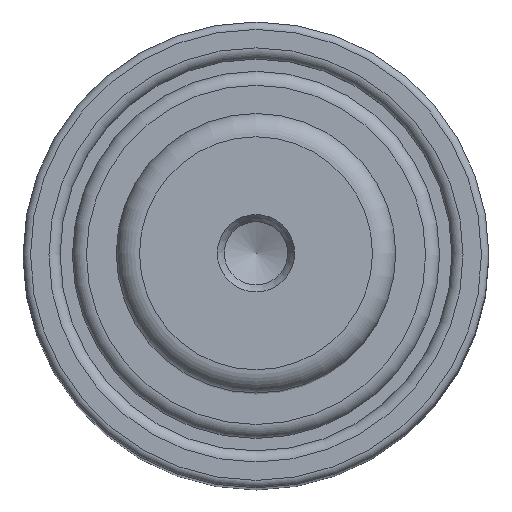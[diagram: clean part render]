
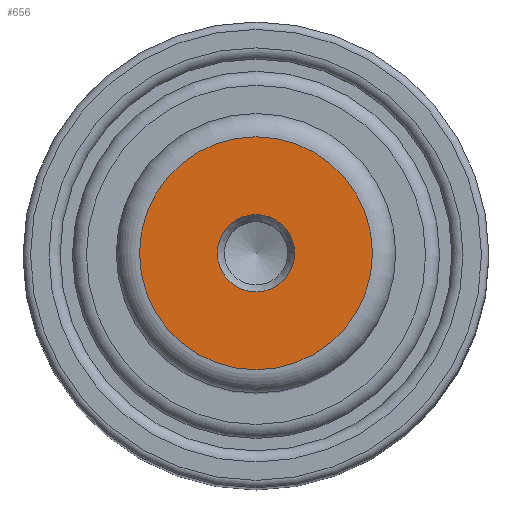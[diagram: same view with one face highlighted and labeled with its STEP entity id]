
A CAD part, top view. The second image highlights one B-rep face of the part: STEP entity #656.
In plain terms, the highlighted planar face has unit normal (0, 0, 1).
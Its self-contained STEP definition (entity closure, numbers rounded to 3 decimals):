
#163=ORIENTED_EDGE('',*,*,#252,.T.);
#164=ORIENTED_EDGE('',*,*,#251,.T.);
#251=EDGE_CURVE('',#309,#309,#363,.F.);
#252=EDGE_CURVE('',#310,#310,#364,.T.);
#309=VERTEX_POINT('',#1344);
#310=VERTEX_POINT('',#1347);
#363=CIRCLE('',#926,4.151);
#364=CIRCLE('',#928,12.5);
#442=EDGE_LOOP('',(#163));
#443=EDGE_LOOP('',(#164));
#550=FACE_BOUND('',#442,.T.);
#551=FACE_BOUND('',#443,.T.);
#615=PLANE('',#927);
#656=ADVANCED_FACE('',(#550,#551),#615,.T.);
#926=AXIS2_PLACEMENT_3D('',#1343,#1105,#1106);
#927=AXIS2_PLACEMENT_3D('',#1345,#1107,#1108);
#928=AXIS2_PLACEMENT_3D('',#1346,#1109,#1110);
#1105=DIRECTION('',(0.,0.,1.));
#1106=DIRECTION('',(1.,0.,0.));
#1107=DIRECTION('',(0.,0.,1.));
#1108=DIRECTION('',(1.,0.,0.));
#1109=DIRECTION('',(0.,0.,1.));
#1110=DIRECTION('',(1.,0.,0.));
#1343=CARTESIAN_POINT('',(0.,0.,123.3));
#1344=CARTESIAN_POINT('',(4.151,0.,123.3));
#1345=CARTESIAN_POINT('',(0.,0.,123.3));
#1346=CARTESIAN_POINT('',(0.,0.,123.3));
#1347=CARTESIAN_POINT('',(12.5,0.,123.3));
